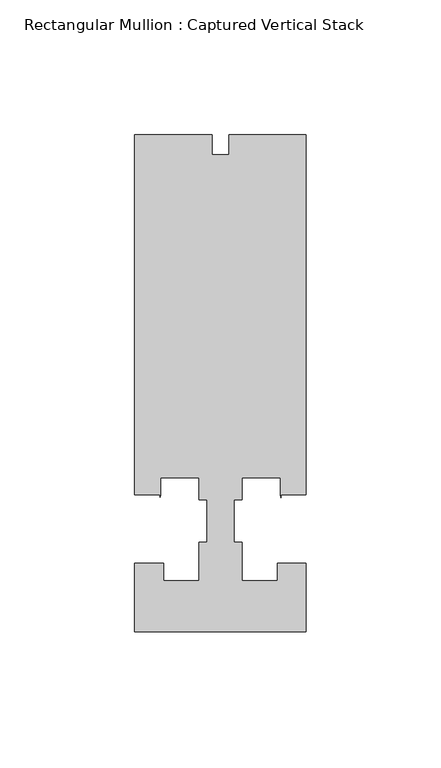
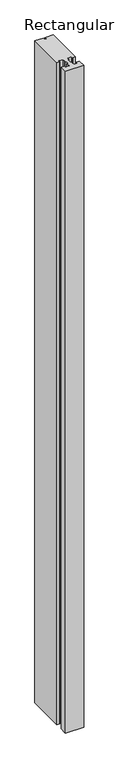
"""IFC4 building model written with IfcOpenShell, lengths in millimetres: member geometry, Rectangular Mullion : Captured Vertical Stack."""

from ifc_helpers import new_model, si_unit, frame, origin, place, context, project, spatial, polyline, outline, extrude, source, transform, mapped, element, save


def rectangular_mullion_captured_vertical_stack_e6b217ad(model_context):
    return source(origin(), model_context, "Body", "SweptSolid", [
        extrude(outline(polyline([(-3.175, 114.3), (-3.175, 106.9085472), (3.175, 106.9085472), (3.175, 114.3), (31.7705663, 114.3), (31.7705663, -18.933673), (22.3913824, -18.933673), (22.3913824, -20.0839351), (22.2251125, -18.933673), (22.2251125, -12.7), (8.0416658, -12.7), (8.0416658, -20.8793999), (4.988785, -20.8793999), (4.988785, -36.6491027), (7.9374472, -36.6491027), (7.9374472, -50.8001709), (21.0845479, -50.8001709), (21.0845479, -44.4245655), (31.7705663, -44.4245655), (31.7705663, -69.8502416), (-31.7294337, -69.8502416), (-31.7294337, -44.4247364), (-21.0270883, -44.4247364), (-21.0270883, -50.8001709), (-7.9375539, -50.8001709), (-7.9375539, -36.6491027), (-4.9639474, -36.6491027), (-4.9639474, -20.8793999), (-7.9375542, -20.8793999), (-7.9375542, -12.7), (-22.2250091, -12.7), (-22.2250091, -18.948961), (-22.4113151, -19.8905485), (-22.4113151, -18.9488461), (-31.75, -18.9488461), (-31.75, 114.3), (-3.175, 114.3)])), frame((0.0, 0.0, -2438.4), z_axis=(0.0, 0.0, 1.0), x_axis=(1.0, 0.0, 0.0)), (0.0, 0.0, 1.0), 2438.4),
    ])


if __name__ == "__main__":
    model = new_model("IFC4")
    model_context = context("Model", 3, world=origin())
    ifc_project = project(units=[si_unit("LENGTHUNIT", "METRE", prefix="MILLI")], contexts=[model_context])
    site = spatial("IfcSite", under=ifc_project)
    building = spatial("IfcBuilding", under=site)
    placement = place(None, origin())
    rectangular_mullion_captured_vertical_stack_shape = rectangular_mullion_captured_vertical_stack_e6b217ad(model_context)
    element("IfcMember", 1, ObjectType="Rectangular Mullion : Captured Vertical Stack", at=placement, inside=building, context=model_context, shape_type="MappedRepresentation", body=[
        mapped(rectangular_mullion_captured_vertical_stack_shape, transform((0.0, 0.0, 0.0), x_axis=(1.0, 0.0, 0.0), y_axis=(0.0, 1.0, 0.0), z_axis=(0.0, 0.0, 1.0))),
    ])
    save(model, "model.ifc")
